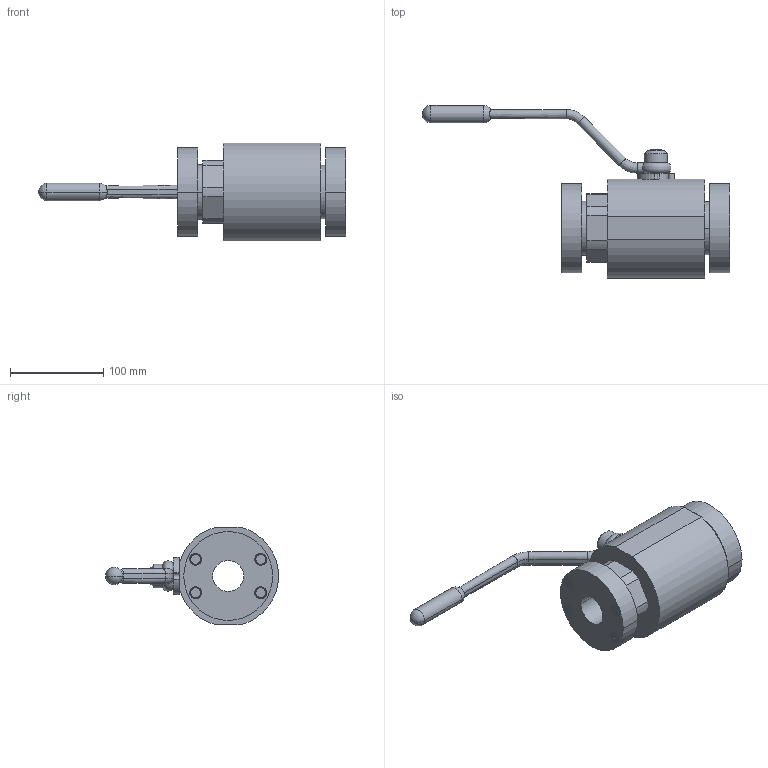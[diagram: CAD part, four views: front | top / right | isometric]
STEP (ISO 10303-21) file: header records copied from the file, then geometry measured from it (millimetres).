
FILE_DESCRIPTION((''),'2;1');
FILE_NAME('001_BVHS_ASS_ASM','2026-05-08T16:16:53',('SYSTEM'),(''),'CREO PARAMETRIC BY PTC INC, 2019010','CREO PARAMETRIC BY PTC INC, 2019010','');
FILE_SCHEMA(('AUTOMOTIVE_DESIGN { 1 0 10303 214 1 1 1 1 }'));
Length unit declared in the file: inch
Products named in the file (13): BASE_BODY_4_FLG_1_5; BALL_1_5; BALL_SEAL_1_5; SPINDLE_1_5; O_RING_1_5; SPINDLE_BUSHING_1_5; INTERNAL_THUST_WASHER_1_5; THREAD_CONNECTION_4_FLG_1_5; STOP_WASHER_1_5; HANDLE_LEVER_1_5; SCREW_CAP_1_5; SCREWS_1_5; 001_BVHS_ASS_ASM
Assembly tree (13 placements, depth 2):
  001_BVHS_ASS_ASM
    BASE_BODY_4_FLG_1_5
    BALL_1_5
    BALL_SEAL_1_5  x2
    SPINDLE_1_5
    O_RING_1_5
    SPINDLE_BUSHING_1_5
    INTERNAL_THUST_WASHER_1_5
    THREAD_CONNECTION_4_FLG_1_5
    STOP_WASHER_1_5
    HANDLE_LEVER_1_5
    SCREW_CAP_1_5
    SCREWS_1_5
Bounding box: 329.68 x 185.55 x 104.9 mm (x, y, z)
Volume: 1242125.8 mm3; surface area: 189903 mm2
Topology: 14 solids, 14 shells, 576 faces, 1466 edges, 921 vertices
Faces by surface type: cylinder 303, bspline 139, plane 75, cone 40, sphere 10, torus 9
Entity records: 64838 total; most frequent: CARTESIAN_POINT 47278, ORIENTED_EDGE 2868, DIRECTION 1987, PRESENTATION_STYLE_ASSIGNMENT 1447, STYLED_ITEM 1447, CURVE_STYLE 1434, EDGE_CURVE 1434, VERTEX_POINT 909
